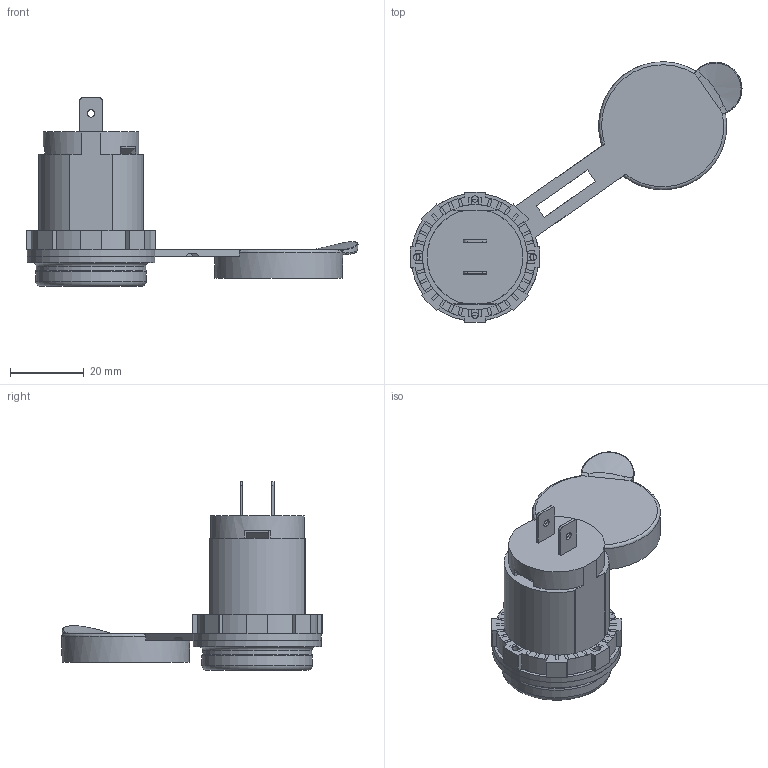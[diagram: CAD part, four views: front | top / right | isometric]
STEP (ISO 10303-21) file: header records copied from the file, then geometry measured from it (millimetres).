
FILE_DESCRIPTION(/* description */ (''),/* implementation_level */ '2;1');
FILE_NAME(/* name */ 'A7A-USB2C-1-BN.stp',/* time_stamp */ '2024-10-11T09:15:53-07:00',/* author */ ('tylerl'),/* organization */ (''),/* preprocessor_version */ 'ST-DEVELOPER v20',/* originating_system */ 'Autodesk Inventor 2025',/* authorisation */ '');
FILE_SCHEMA (('AUTOMOTIVE_DESIGN { 1 0 10303 214 3 1 1 }'));
Products named in the file (4): A7A-USB2C-1-BN; Base; Ring; Toggle
Assembly tree (3 placements, depth 2):
  A7A-USB2C-1-BN
    Base
    Ring
    Toggle
Bounding box: 90.19 x 70.73 x 51.2 mm (x, y, z)
Volume: 31833.9 mm3; surface area: 13134.6 mm2
Topology: 3 solids, 3 shells, 534 faces, 1516 edges, 1002 vertices
Faces by surface type: plane 455, cylinder 64, torus 10, bspline 5
Full cylindrical faces by diameter (mm): 1.75 x4, 2 x2, 15.9 x1, 27.75 x1, 28.5 x1, 29.7 x1, 30 x1, 31.7 x1, 34.75 x2
Entity records: 17789 total; most frequent: CARTESIAN_POINT 3480, ORIENTED_EDGE 3032, DIRECTION 2875, EDGE_CURVE 1516, LINE 1177, VECTOR 1177, VERTEX_POINT 1001, AXIS2_PLACEMENT_3D 849
